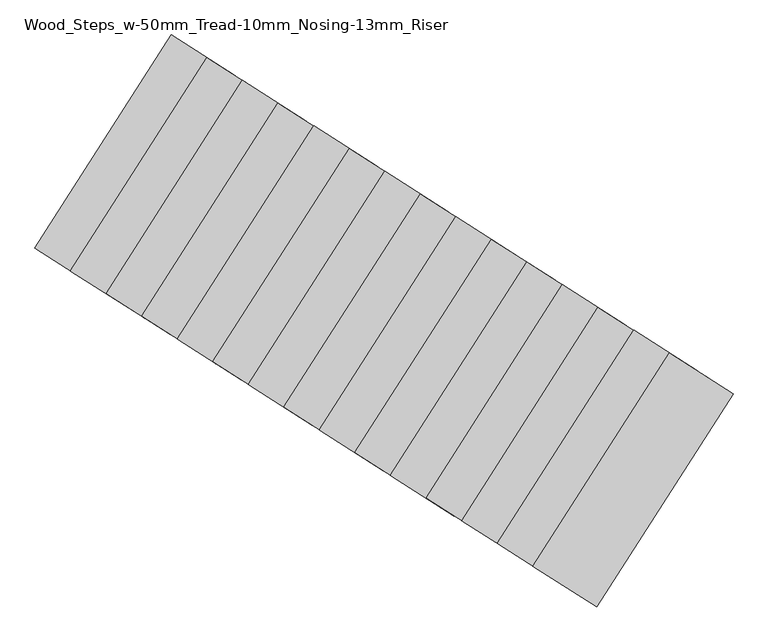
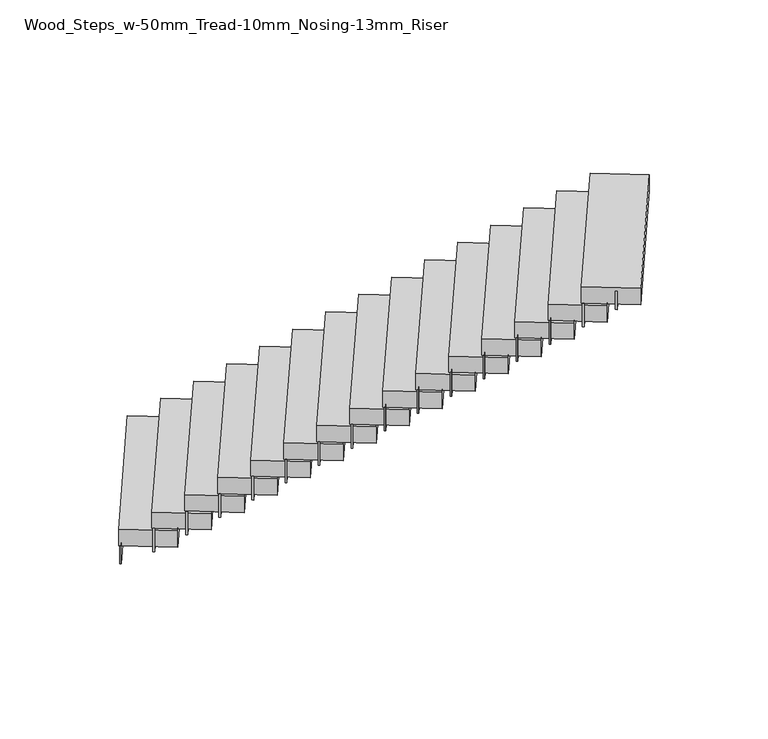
"""IFC4 building model written with IfcOpenShell, lengths in millimetres: stair flight geometry, Wood_Steps_w-50mm_Tread-10mm_Nosing-13mm_Riser."""

from ifc_helpers import new_model, si_unit, frame, origin, place, context, project, spatial, polyline, outline, extrude, source, transform, mapped, element, save


def wood_steps_w_50mm_tread_10mm_nosing_13mm_riser_dacc1f6c(model_context):
    return source(origin(), model_context, "Body", "SweptSolid", [
        extrude(outline(polyline([(12556.485515, 9528.6409527), (12545.9541885, 9535.3745373), (13353.9843496, 10799.1337149), (13364.515676, 10792.4001302), (12556.485515, 9528.6409527)])), frame((0.0, 0.0, 800.0), z_axis=(0.0, 0.0, 1.0), x_axis=(1.0, 0.0, 0.0)), (0.0, 0.0, 1.0), 167.7419355),
        extrude(outline(polyline([(12767.1120445, 9393.9692591), (12756.5807181, 9400.7028438), (13564.6108791, 10664.4620214), (13575.1422056, 10657.7284367), (12767.1120445, 9393.9692591)])), frame((0.0, 0.0, 917.7419355), z_axis=(0.0, 0.0, 1.0), x_axis=(1.0, 0.0, 0.0)), (0.0, 0.0, 1.0), 217.7419355),
        extrude(outline(polyline([(12977.7385741, 9259.2975656), (12967.2072477, 9266.0311503), (13775.2374087, 10529.7903278), (13785.7687352, 10523.0567432), (12977.7385741, 9259.2975656)])), frame((0.0, 0.0, 1085.483871), z_axis=(0.0, 0.0, 1.0), x_axis=(1.0, 0.0, 0.0)), (0.0, 0.0, 1.0), 217.7419355),
        extrude(outline(polyline([(13188.3651037, 9124.6258721), (13177.8337772, 9131.3594568), (13985.8639383, 10395.1186343), (13996.3952648, 10388.3850497), (13188.3651037, 9124.6258721)])), frame((0.0, 0.0, 1253.2258065), z_axis=(0.0, 0.0, 1.0), x_axis=(1.0, 0.0, 0.0)), (0.0, 0.0, 1.0), 217.7419355),
        extrude(outline(polyline([(13398.9916333, 8989.9541786), (13388.4603068, 8996.6877633), (14196.4904679, 10260.4469408), (14207.0217944, 10253.7133561), (13398.9916333, 8989.9541786)])), frame((0.0, 0.0, 1420.9677419), z_axis=(0.0, 0.0, 1.0), x_axis=(1.0, 0.0, 0.0)), (0.0, 0.0, 1.0), 217.7419355),
        extrude(outline(polyline([(13609.6181629, 8855.2824851), (13599.0868364, 8862.0160698), (14407.1169975, 10125.7752473), (14417.648324, 10119.0416626), (13609.6181629, 8855.2824851)])), frame((0.0, 0.0, 1588.7096774), z_axis=(0.0, 0.0, 1.0), x_axis=(1.0, 0.0, 0.0)), (0.0, 0.0, 1.0), 217.7419355),
        extrude(outline(polyline([(13820.2446925, 8720.6107916), (13809.713366, 8727.3443763), (14617.7435271, 9991.1035538), (14628.2748536, 9984.3699691), (13820.2446925, 8720.6107916)])), frame((0.0, 0.0, 1756.4516129), z_axis=(0.0, 0.0, 1.0), x_axis=(1.0, 0.0, 0.0)), (0.0, 0.0, 1.0), 217.7419355),
        extrude(outline(polyline([(14030.8712221, 8585.9390981), (14020.3398956, 8592.6726827), (14828.3700567, 9856.4318603), (14838.9013831, 9849.6982756), (14030.8712221, 8585.9390981)])), frame((0.0, 0.0, 1924.1935484), z_axis=(0.0, 0.0, 1.0), x_axis=(1.0, 0.0, 0.0)), (0.0, 0.0, 1.0), 217.7419355),
        extrude(outline(polyline([(14241.4977517, 8451.2674046), (14230.9664252, 8458.0009892), (15038.9965863, 9721.7601668), (15049.5279127, 9715.0265821), (14241.4977517, 8451.2674046)])), frame((0.0, 0.0, 2091.9354839), z_axis=(0.0, 0.0, 1.0), x_axis=(1.0, 0.0, 0.0)), (0.0, 0.0, 1.0), 217.7419355),
        extrude(outline(polyline([(14452.1242813, 8316.595711), (14441.5929548, 8323.3292957), (15249.6231158, 9587.0884733), (15260.1544423, 9580.3548886), (14452.1242813, 8316.595711)])), frame((0.0, 0.0, 2259.6774194), z_axis=(0.0, 0.0, 1.0), x_axis=(1.0, 0.0, 0.0)), (0.0, 0.0, 1.0), 217.7419355),
        extrude(outline(polyline([(14662.7508108, 8181.9240175), (14652.2194844, 8188.6576022), (15460.2496454, 9452.4167797), (15470.7809719, 9445.6831951), (14662.7508108, 8181.9240175)])), frame((0.0, 0.0, 2427.4193548), z_axis=(0.0, 0.0, 1.0), x_axis=(1.0, 0.0, 0.0)), (0.0, 0.0, 1.0), 217.7419355),
        extrude(outline(polyline([(14873.3773404, 8047.252324), (14862.8460139, 8053.9859087), (15670.876175, 9317.7450862), (15681.4075015, 9311.0115016), (14873.3773404, 8047.252324)])), frame((0.0, 0.0, 2595.1612903), z_axis=(0.0, 0.0, 1.0), x_axis=(1.0, 0.0, 0.0)), (0.0, 0.0, 1.0), 217.7419355),
        extrude(outline(polyline([(15084.00387, 7912.5806305), (15073.4725435, 7919.3142152), (15881.5027046, 9183.0733927), (15892.0340311, 9176.339808), (15084.00387, 7912.5806305)])), frame((0.0, 0.0, 2762.9032258), z_axis=(0.0, 0.0, 1.0), x_axis=(1.0, 0.0, 0.0)), (0.0, 0.0, 1.0), 217.7419355),
        extrude(outline(polyline([(15294.6303996, 7777.908937), (15284.0990731, 7784.6425217), (16092.1292342, 9048.4016992), (16102.6605607, 9041.6681145), (15294.6303996, 7777.908937)])), frame((0.0, 0.0, 2930.6451613), z_axis=(0.0, 0.0, 1.0), x_axis=(1.0, 0.0, 0.0)), (0.0, 0.0, 1.0), 217.7419355),
        extrude(outline(polyline([(15505.2569292, 7643.2372435), (15494.7256027, 7649.9708282), (16302.7557638, 8913.7300057), (16313.2870903, 8906.996421), (15505.2569292, 7643.2372435)])), frame((0.0, 0.0, 3098.3870968), z_axis=(0.0, 0.0, 1.0), x_axis=(1.0, 0.0, 0.0)), (0.0, 0.0, 1.0), 217.7419355),
        extrude(outline(polyline([(15715.8834588, 7508.56555), (15705.3521323, 7515.2991346), (16513.3822934, 8779.0583122), (16523.9136199, 8772.3247275), (15715.8834588, 7508.56555)])), frame((0.0, 0.0, 3266.1290323), z_axis=(0.0, 0.0, 1.0), x_axis=(1.0, 0.0, 0.0)), (0.0, 0.0, 1.0), 167.7419355),
        extrude(outline(polyline([(12916.6568806, 9298.3523568), (12537.5291273, 9540.7614051), (13345.5592884, 10804.5205826), (13724.6870416, 10562.1115343), (12916.6568806, 9298.3523568)])), frame((0.0, 0.0, 967.7419355), z_axis=(0.0, 0.0, 1.0), x_axis=(1.0, 0.0, 0.0)), (0.0, 0.0, 1.0), 150.0),
        extrude(outline(polyline([(13127.2834101, 9163.6806632), (12748.1556569, 9406.0897116), (13556.185818, 10669.8488891), (13935.3135712, 10427.4398408), (13127.2834101, 9163.6806632)])), frame((0.0, 0.0, 1135.483871), z_axis=(0.0, 0.0, 1.0), x_axis=(1.0, 0.0, 0.0)), (0.0, 0.0, 1.0), 150.0),
        extrude(outline(polyline([(13337.9099397, 9029.0089697), (12958.7821865, 9271.418018), (13766.8123475, 10535.1771956), (14145.9401008, 10292.7681473), (13337.9099397, 9029.0089697)])), frame((0.0, 0.0, 1303.2258065), z_axis=(0.0, 0.0, 1.0), x_axis=(1.0, 0.0, 0.0)), (0.0, 0.0, 1.0), 150.0),
        extrude(outline(polyline([(13548.5364693, 8894.3372762), (13169.4087161, 9136.7463245), (13977.4388771, 10400.5055021), (14356.5666304, 10158.0964537), (13548.5364693, 8894.3372762)])), frame((0.0, 0.0, 1470.9677419), z_axis=(0.0, 0.0, 1.0), x_axis=(1.0, 0.0, 0.0)), (0.0, 0.0, 1.0), 150.0),
        extrude(outline(polyline([(13759.1629989, 8759.6655827), (13380.0352456, 9002.074631), (14188.0654067, 10265.8338086), (14567.19316, 10023.4247602), (13759.1629989, 8759.6655827)])), frame((0.0, 0.0, 1638.7096774), z_axis=(0.0, 0.0, 1.0), x_axis=(1.0, 0.0, 0.0)), (0.0, 0.0, 1.0), 150.0),
        extrude(outline(polyline([(13969.7895285, 8624.9938892), (13590.6617752, 8867.4029375), (14398.6919363, 10131.162115), (14777.8196896, 9888.7530667), (13969.7895285, 8624.9938892)])), frame((0.0, 0.0, 1806.4516129), z_axis=(0.0, 0.0, 1.0), x_axis=(1.0, 0.0, 0.0)), (0.0, 0.0, 1.0), 150.0),
        extrude(outline(polyline([(14180.4160581, 8490.3221957), (13801.2883048, 8732.731244), (14609.3184659, 9996.4904215), (14988.4462192, 9754.0813732), (14180.4160581, 8490.3221957)])), frame((0.0, 0.0, 1974.1935484), z_axis=(0.0, 0.0, 1.0), x_axis=(1.0, 0.0, 0.0)), (0.0, 0.0, 1.0), 150.0),
        extrude(outline(polyline([(14391.0425877, 8355.6505022), (14011.9148344, 8598.0595505), (14819.9449955, 9861.818728), (15199.0727487, 9619.4096797), (14391.0425877, 8355.6505022)])), frame((0.0, 0.0, 2141.9354839), z_axis=(0.0, 0.0, 1.0), x_axis=(1.0, 0.0, 0.0)), (0.0, 0.0, 1.0), 150.0),
        extrude(outline(polyline([(14601.6691173, 8220.9788087), (14222.541364, 8463.387857), (15030.5715251, 9727.1470345), (15409.6992783, 9484.7379862), (14601.6691173, 8220.9788087)])), frame((0.0, 0.0, 2309.6774194), z_axis=(0.0, 0.0, 1.0), x_axis=(1.0, 0.0, 0.0)), (0.0, 0.0, 1.0), 150.0),
        extrude(outline(polyline([(14812.2956468, 8086.3071151), (14433.1678936, 8328.7161635), (15241.1980547, 9592.475341), (15620.3258079, 9350.0662927), (14812.2956468, 8086.3071151)])), frame((0.0, 0.0, 2477.4193548), z_axis=(0.0, 0.0, 1.0), x_axis=(1.0, 0.0, 0.0)), (0.0, 0.0, 1.0), 150.0),
        extrude(outline(polyline([(15022.9221764, 7951.6354216), (14643.7944232, 8194.0444699), (15451.8245843, 9457.8036475), (15830.9523375, 9215.3945992), (15022.9221764, 7951.6354216)])), frame((0.0, 0.0, 2645.1612903), z_axis=(0.0, 0.0, 1.0), x_axis=(1.0, 0.0, 0.0)), (0.0, 0.0, 1.0), 150.0),
        extrude(outline(polyline([(15233.548706, 7816.9637281), (14854.4209528, 8059.3727764), (15662.4511138, 9323.131954), (16041.5788671, 9080.7229056), (15233.548706, 7816.9637281)])), frame((0.0, 0.0, 2812.9032258), z_axis=(0.0, 0.0, 1.0), x_axis=(1.0, 0.0, 0.0)), (0.0, 0.0, 1.0), 150.0),
        extrude(outline(polyline([(15444.1752356, 7682.2920346), (15065.0474824, 7924.7010829), (15873.0776434, 9188.4602605), (16252.2053967, 8946.0512121), (15444.1752356, 7682.2920346)])), frame((0.0, 0.0, 2980.6451613), z_axis=(0.0, 0.0, 1.0), x_axis=(1.0, 0.0, 0.0)), (0.0, 0.0, 1.0), 150.0),
        extrude(outline(polyline([(15654.8017652, 7547.6203411), (15275.6740119, 7790.0293894), (16083.704173, 9053.7885669), (16462.8319263, 8811.3795186), (15654.8017652, 7547.6203411)])), frame((0.0, 0.0, 3148.3870968), z_axis=(0.0, 0.0, 1.0), x_axis=(1.0, 0.0, 0.0)), (0.0, 0.0, 1.0), 150.0),
        extrude(outline(polyline([(15865.4282948, 7412.9486476), (15486.3005415, 7655.3576959), (16294.3307026, 8919.1168734), (16673.4584559, 8676.7078251), (15865.4282948, 7412.9486476)])), frame((0.0, 0.0, 3316.1290323), z_axis=(0.0, 0.0, 1.0), x_axis=(1.0, 0.0, 0.0)), (0.0, 0.0, 1.0), 150.0),
    ])


if __name__ == "__main__":
    model = new_model("IFC4")
    model_context = context("Model", 3, world=origin())
    ifc_project = project(units=[si_unit("LENGTHUNIT", "METRE", prefix="MILLI")], contexts=[model_context])
    site = spatial("IfcSite", under=ifc_project)
    building = spatial("IfcBuilding", under=site)
    placement = place(None, origin())
    wood_steps_w_50mm_tread_10mm_nosing_13mm_riser_shape = wood_steps_w_50mm_tread_10mm_nosing_13mm_riser_dacc1f6c(model_context)
    element("IfcStairFlight", 1, ObjectType="Wood_Steps_w-50mm_Tread-10mm_Nosing-13mm_Riser", at=placement, inside=building, context=model_context, shape_type="MappedRepresentation", body=[
        mapped(wood_steps_w_50mm_tread_10mm_nosing_13mm_riser_shape, transform((0.0, 0.0, 0.0), x_axis=(1.0, 0.0, 0.0), y_axis=(0.0, 1.0, 0.0), z_axis=(0.0, 0.0, 1.0))),
    ])
    save(model, "model.ifc")
